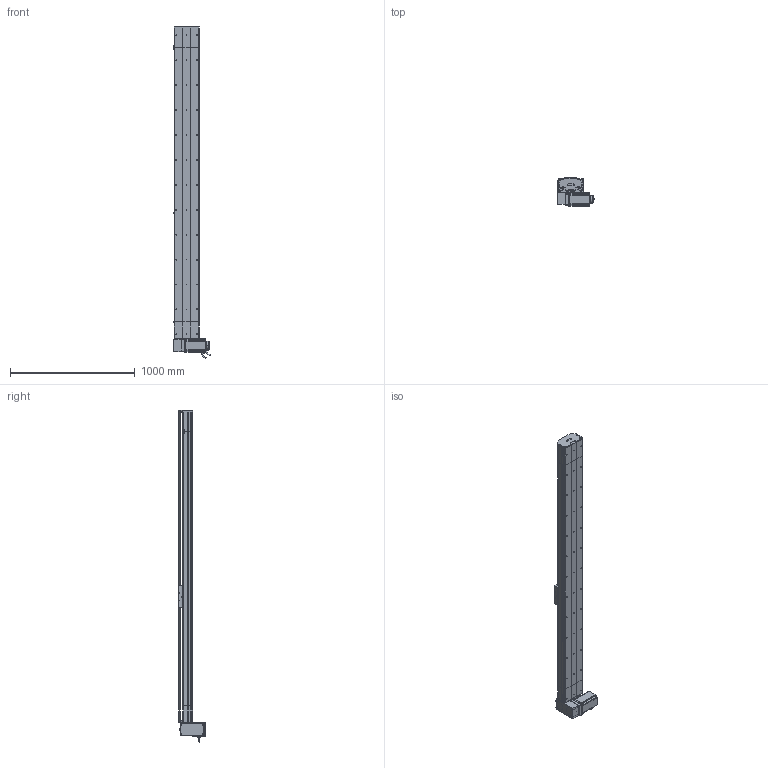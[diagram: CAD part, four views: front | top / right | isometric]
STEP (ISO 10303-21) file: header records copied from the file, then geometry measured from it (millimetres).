
FILE_DESCRIPTION (( 'STEP AP214' ), '1' );
FILE_NAME ('D20 TBH RU S2200.STEP', '2010-07-01T07:57:06', ( 'Conseil Régional Haute-Normandie' ), ( 'Conseil Régional Haute-Normandie' ), 'SwSTEP 2.0', 'SolidWorks 2010', '' );
FILE_SCHEMA (( 'AUTOMOTIVE_DESIGN' ));
Length unit declared in the file: millimetre
Products named in the file (40): couvercle head D20_Default; vis M8 L12_Default; clavette; corps 110BLDC170A-630x; avant 110BLDC170A-630x; Moteur motionking 110BLDC170A-640x; Conecteur_Default; Conecteur2_Default; codeur 110BLDC170A-630x; vis M5 L70_Default; Plaque racord D20LH_Default; Renvoi RU D20_Default; vis M5 L25_Default; vis M5 L5_Default; couroie_Default; cache arbre D20_Default; plaque de  bout head D20B RU_Default; poulie head D20_Default; cache D20_Default; vis M5 L12_Default; chariot D20B_Default; D20 TBH RU S2200; Course B L2200_Default; guide D20B; Chariot D20B; rail + couroie  D20 S2200; couvercle D20 S2200_Default; corp D20 S2200_Default; poulie tail D20_Default; corpl tail D20_Default; tail D20_Default; couvercle tail D20_Default; Couroie tail D20_Default; plaque de  bout tail D20_Default; rail tail D20; vis M5 L8 90°_Default; tete d''axe poulie D20B; rail head D20; corpl head D20_Default; head RU_Default
Assembly tree (71 placements, depth 4):
  D20 TBH RU S2200
    Course B L2200_Default
      corp D20 S2200_Default
      rail + couroie  D20 S2200
      couvercle D20 S2200_Default
    head RU_Default
      rail head D20
      vis M5 L12_Default  x10
      vis M5 L70_Default  x4
      couvercle head D20_Default
      vis M8 L12_Default  x4
      vis M5 L5_Default  x4
      Plaque racord D20LH_Default
      vis M5 L25_Default  x2
      plaque de  bout head D20B RU_Default
      couroie_Default
      Moteur motionking 110BLDC170A-640x
        Conecteur2_Default
        avant 110BLDC170A-630x
        Conecteur_Default
        codeur 110BLDC170A-630x
        corps 110BLDC170A-630x
        clavette
      cache D20_Default  x2
      cache arbre D20_Default
      corpl head D20_Default
      Renvoi RU D20_Default
      poulie head D20_Default
    tail D20_Default
      plaque de  bout tail D20_Default
      poulie tail D20_Default
      vis M5 L25_Default  x2
      vis M5 L12_Default  x4
      vis M5 L8 90°_Default  x2
      rail tail D20
      corpl tail D20_Default
      couvercle tail D20_Default
      Couroie tail D20_Default
      tete d''axe poulie D20B
    chariot D20B_Default
      guide D20B  x2
      vis M5 L12_Default  x4
      Chariot D20B
Bounding box: 304.2 x 223.2 x 2665 mm (x, y, z)
Volume: 21618484.5 mm3; surface area: 5244242.9 mm2
Topology: 95 solids, 95 shells, 2794 faces, 7110 edges, 4591 vertices
Faces by surface type: plane 1629, cylinder 841, bspline 136, cone 99, torus 89
Entity records: 88985 total; most frequent: CARTESIAN_POINT 28675, ORIENTED_EDGE 10876, DIRECTION 10255, EDGE_CURVE 5438, VERTEX_POINT 3577, VECTOR 3497, LINE 3497, AXIS2_PLACEMENT_3D 3379
